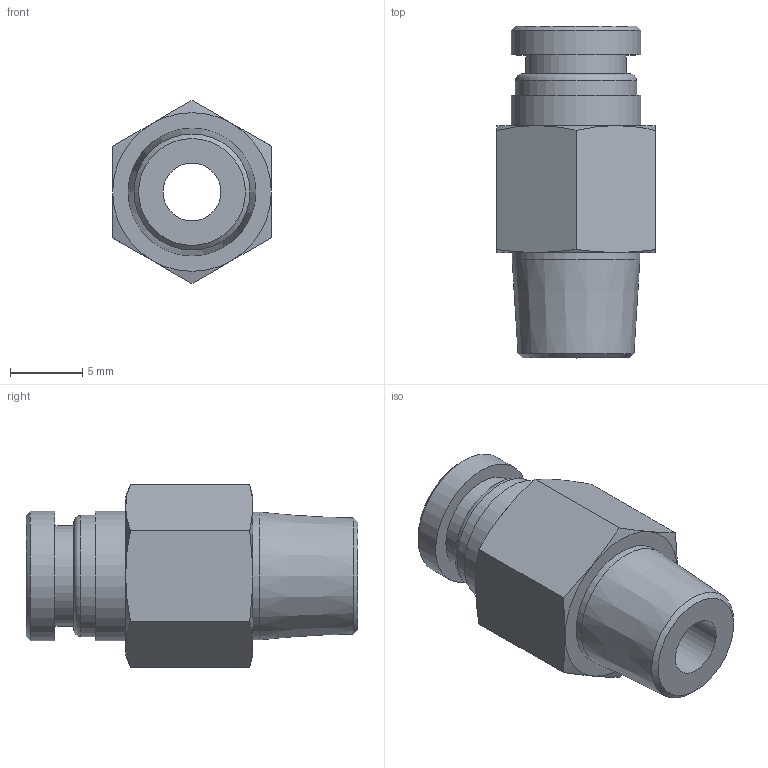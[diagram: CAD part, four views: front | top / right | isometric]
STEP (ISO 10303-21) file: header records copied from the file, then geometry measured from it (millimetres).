
FILE_DESCRIPTION(/* description */ (''),/* implementation_level */ '2;1');
FILE_NAME(/* name */ 'LXH11 0006 B1.stp',/* time_stamp */ '2026-04-19T14:25:52+02:00',/* author */ ('freju'),/* organization */ (''),/* preprocessor_version */ 'ST-DEVELOPER v20.1',/* originating_system */ 'Autodesk Inventor 2026',/* authorisation */ '');
FILE_SCHEMA (('AUTOMOTIVE_DESIGN { 1 0 10303 214 3 1 1 }'));
Length unit declared in the file: millimetre
Products named in the file (1): LXH11 0006 B1
Bounding box: 11 x 23 x 12.7 mm (x, y, z)
Volume: 1259.2 mm3; surface area: 1274.1 mm2
Topology: 1 solids, 1 shells, 37 faces, 74 edges, 45 vertices
Faces by surface type: cone 15, plane 14, cylinder 7, torus 1
Full cylindrical faces by diameter (mm): 4 x1, 6 x1, 7 x1, 8.4 x1, 8.851 x1, 9 x2
Entity records: 981 total; most frequent: CARTESIAN_POINT 205, DIRECTION 160, ORIENTED_EDGE 148, EDGE_CURVE 74, AXIS2_PLACEMENT_3D 72, EDGE_LOOP 45, VERTEX_POINT 45, FACE_OUTER_BOUND 37
